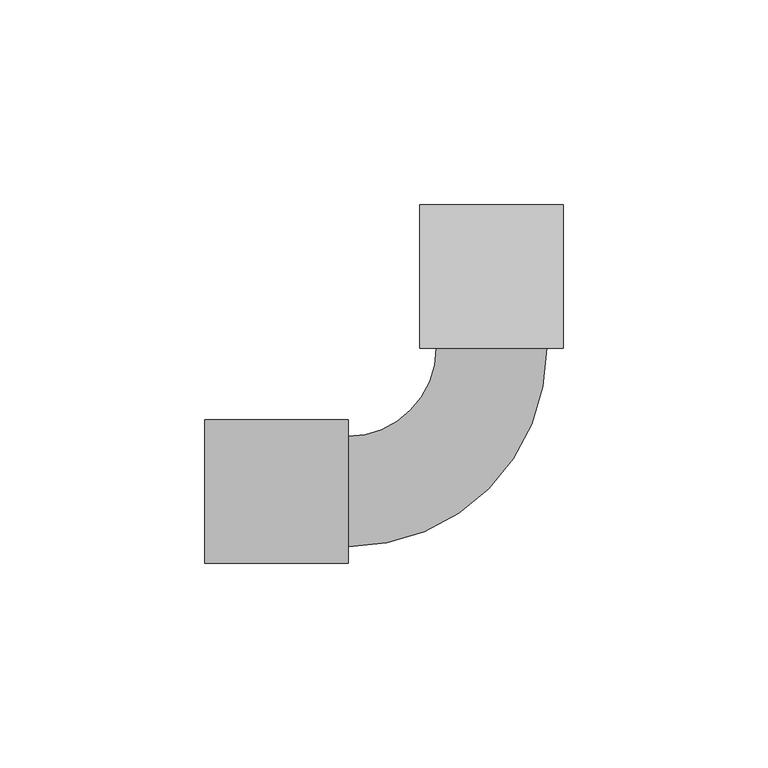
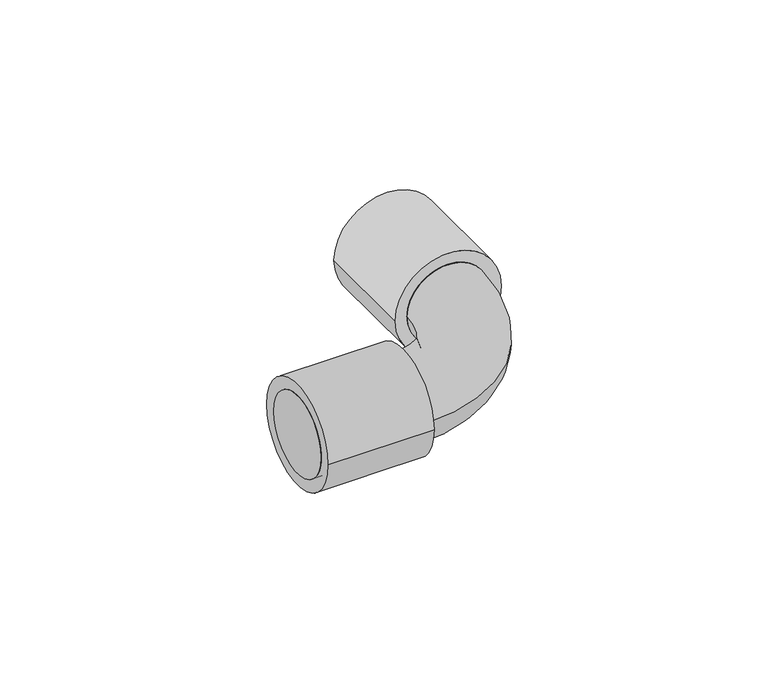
"""IFC4 building model written with IfcOpenShell, lengths in millimetres: cable carrier fitting geometry, Поворот на 90 труба-труба IP65 CS : Поворот на 90 труба-труба IP65 CS."""

from ifc_helpers import new_model, si_unit, point, frame, origin, origin_2d, place, context, project, spatial, circle_curve, ellipse_curve, trimmed, segment, composite_curve, outline, extrude, source, transform, mapped, element, save
from ifc_brep_helpers import plane_surface, cylinder_surface, revolved_surface, advanced_brep


def cable_carrier_fitting_5acdfb20(model_context):
    return source(origin(), model_context, "Body", "SolidModel", [
        advanced_brep(
        [(-70.0, -13.5, 0.0), (-70.0, 13.5, 0.0), (-35.0, -13.5, 0.0), (-35.0, 13.5, 0.0), (-13.5, 35.0, 0.0), (13.5, 35.0, 0.0), (13.5, 70.0, 0.0), (-13.5, 70.0, 0.0)],
        [
            (0, 1, circle_curve(frame((-70.0, 0.0, 0.0), z_axis=(-1.0, 0.0, 0.0), x_axis=(0.0, 1.0, 0.0)), 13.5)),
            (1, 0, circle_curve(frame((-70.0, 0.0, 0.0), z_axis=(-1.0, 0.0, 0.0), x_axis=(0.0, 1.0, 0.0)), 13.5)),
            (0, 2),
            (2, 3, circle_curve(frame((-35.0, 0.0, 0.0), z_axis=(-1.0, 0.0, 0.0), x_axis=(0.0, 1.0, 0.0)), 13.5)),
            (3, 1),
            (3, 2, circle_curve(frame((-35.0, 0.0, 0.0), z_axis=(-1.0, 0.0, 0.0), x_axis=(0.0, 1.0, 0.0)), 13.5)),
            (4, 3, circle_curve(frame((-35.0, 35.0, 0.0), z_axis=(0.0, 0.0, -1.0), x_axis=(0.0, -1.0, 0.0)), 21.5)),
            (2, 5, circle_curve(frame((-35.0, 35.0, 0.0), z_axis=(0.0, 0.0, 1.0), x_axis=(0.0, -1.0, 0.0)), 48.5)),
            (5, 4, circle_curve(frame((0.0, 35.0, 0.0), z_axis=(0.0, -1.0, 0.0), x_axis=(-1.0, 0.0, 0.0)), 13.5)),
            (4, 5, circle_curve(frame((0.0, 35.0, 0.0), z_axis=(0.0, -1.0, 0.0), x_axis=(-1.0, 0.0, 0.0)), 13.5)),
            (6, 7, circle_curve(frame((0.0, 70.0, 0.0), z_axis=(0.0, 1.0, 0.0), x_axis=(-1.0, 0.0, 0.0)), 13.5)),
            (7, 6, circle_curve(frame((0.0, 70.0, 0.0), z_axis=(0.0, 1.0, 0.0), x_axis=(-1.0, 0.0, 0.0)), 13.5)),
            (5, 6),
            (7, 4),
        ],
        [
            plane_surface(frame((-70.0, 0.0, 0.0), z_axis=(-1.0, 0.0, 0.0), x_axis=(0.0, 0.0, 1.0))),
            cylinder_surface(frame((-70.0, 0.0, 0.0), z_axis=(-1.0, 0.0, 0.0), x_axis=(0.0, 1.0, 0.0)), 13.5),
            revolved_surface(trimmed(ellipse_curve(frame((-35.0, 0.0, 0.0), z_axis=(-1.0, 0.0, 0.0), x_axis=(0.0, 1.0, 0.0)), 13.5, 13.5), [point((-35.0, -13.5, 0.0))], [point((-35.0, 13.5, 0.0))], True, "CARTESIAN"), (-35.0, 35.0, 0.0), (0.0, 0.0, 1.0)),
            revolved_surface(trimmed(ellipse_curve(frame((-35.0, 0.0, 0.0), z_axis=(-1.0, 0.0, 0.0), x_axis=(0.0, 1.0, 0.0)), 13.5, 13.5), [point((-35.0, 13.5, 0.0))], [point((-35.0, -13.5, 0.0))], True, "CARTESIAN"), (-35.0, 35.0, 0.0), (0.0, 0.0, 1.0)),
            plane_surface(frame((0.0, 70.0, 0.0), z_axis=(0.0, 1.0, 0.0), x_axis=(0.0, 0.0, 1.0))),
            cylinder_surface(frame((0.0, 35.0, 0.0), z_axis=(0.0, -1.0, 0.0), x_axis=(-1.0, 0.0, 0.0)), 13.5),
        ],
        [
            (0, [[1, 2]]),
            (1, [[-1, 3, 4, 5]]),
            (1, [[-2, -5, 6, -3]]),
            (2, [[7, -4, 8, 9]]),
            (3, [[-8, -6, -7, 10]]),
            (4, [[11, 12]]),
            (5, [[-9, 13, -12, 14]]),
            (5, [[-10, -14, -11, -13]]),
        ],
    ),
        extrude(outline(composite_curve([segment(trimmed(circle_curve(origin_2d(), 17.5), [point((-17.5, 0.0))], [point((17.5, 0.0))], False, "CARTESIAN"), True, "CONTINUOUS"), segment(trimmed(circle_curve(origin_2d(), 17.5), [point((17.5, 0.0))], [point((-17.5, 0.0))], False, "CARTESIAN"), True, "CONTINUOUS")], self_intersect=False)), frame((-70.0, 0.0, 0.0), z_axis=(1.0, 0.0, 0.0), x_axis=(0.0, 1.0, 0.0)), (0.0, 0.0, 1.0), 35.0),
        extrude(outline(composite_curve([segment(trimmed(circle_curve(origin_2d(), 17.5), [point((0.0, 17.5))], [point((0.0, -17.5))], False, "CARTESIAN"), True, "CONTINUOUS"), segment(trimmed(circle_curve(origin_2d(), 17.5), [point((0.0, -17.5))], [point((0.0, 17.5))], False, "CARTESIAN"), True, "CONTINUOUS")], self_intersect=False)), frame((0.0, 35.0, 0.0), z_axis=(0.0, 1.0, 0.0), x_axis=(0.0, 0.0, 1.0)), (0.0, 0.0, 1.0), 35.0),
    ])


if __name__ == "__main__":
    model = new_model("IFC4")
    model_context = context("Model", 3, world=origin())
    ifc_project = project(units=[si_unit("LENGTHUNIT", "METRE", prefix="MILLI")], contexts=[model_context])
    site = spatial("IfcSite", under=ifc_project)
    building = spatial("IfcBuilding", under=site)
    placement = place(None, origin())
    cable_carrier_fitting_shape = cable_carrier_fitting_5acdfb20(model_context)
    element("IfcCableCarrierFitting", 1, ObjectType="Поворот на 90 труба-труба IP65 CS : Поворот на 90 труба-труба IP65 CS", at=placement, inside=building, context=model_context, shape_type="MappedRepresentation", body=[
        mapped(cable_carrier_fitting_shape, transform((0.0, 0.0, 0.0), x_axis=(1.0, 0.0, 0.0), y_axis=(0.0, 1.0, 0.0), z_axis=(0.0, 0.0, 1.0))),
    ])
    save(model, "model.ifc")
